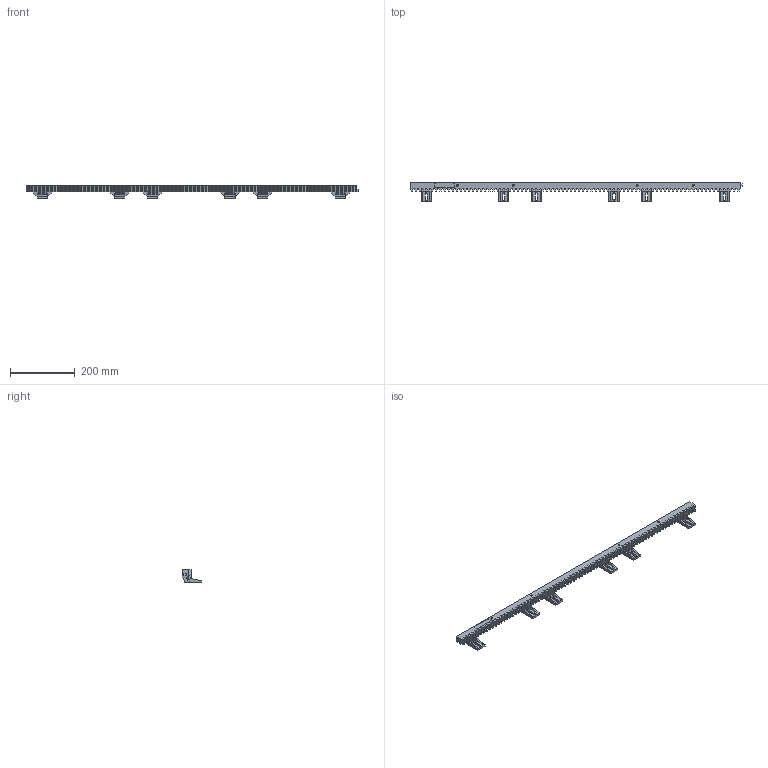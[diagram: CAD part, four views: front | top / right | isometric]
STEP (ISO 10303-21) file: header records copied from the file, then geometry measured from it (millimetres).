
FILE_DESCRIPTION (( 'STEP AP214' ), '1' );
FILE_NAME ('5829_Rack_Zahnstange.STEP', '2016-03-16T06:58:17', ( 'Admin' ), ( '' ), 'SwSTEP 2.0', 'SolidWorks 2014', '' );
FILE_SCHEMA (( 'AUTOMOTIVE_DESIGN' ));
Length unit declared in the file: millimetre
Products named in the file (1): 5829_Rack_Zahnstange
Bounding box: 1022 x 60 x 40 mm (x, y, z)
Volume: 565080 mm3; surface area: 227643.7 mm2
Topology: 2 solids, 2 shells, 579 faces, 1680 edges, 1108 vertices
Faces by surface type: plane 523, cylinder 40, cone 16
Entity records: 20712 total; most frequent: CARTESIAN_POINT 3476, ORIENTED_EDGE 3360, DIRECTION 2880, EDGE_CURVE 1680, LINE 1568, VECTOR 1568, VERTEX_POINT 1108, AXIS2_PLACEMENT_3D 656
